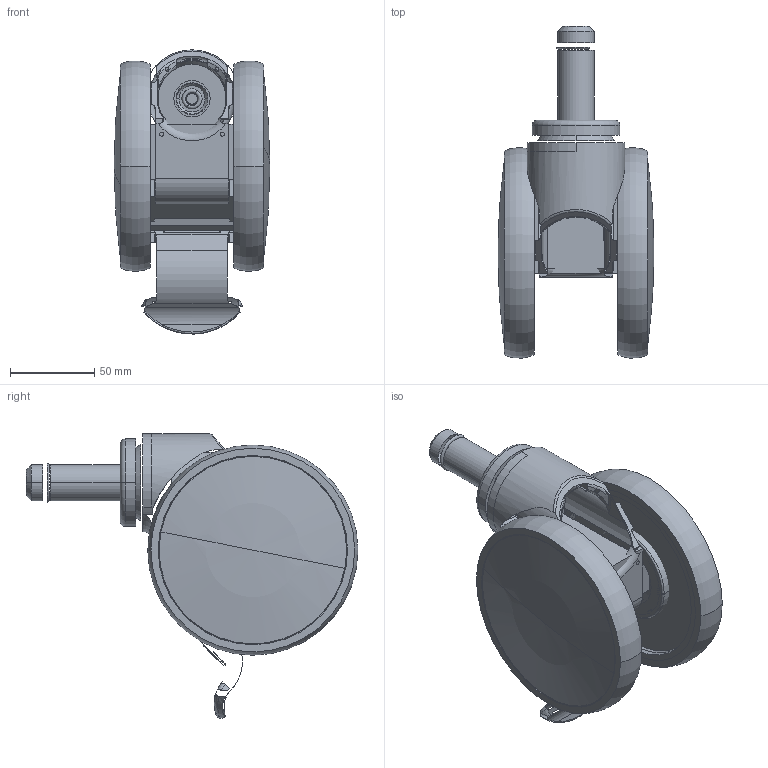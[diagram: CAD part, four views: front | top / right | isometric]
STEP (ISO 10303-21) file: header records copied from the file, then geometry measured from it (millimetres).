
FILE_DESCRIPTION((''),'2;1');
FILE_NAME('PRT0015','2025-06-26T16:23:03',('Administrator'),(''),'CREO PARAMETRIC BY PTC INC, 2022124','CREO PARAMETRIC BY PTC INC, 2022124','');
FILE_SCHEMA(('AP203_CONFIGURATION_CONTROLLED_3D_DESIGN_OF_MECHANICAL_PARTS_AND_ASSEMBLIES_MIM_LF { 1 0 10303 403 2 1 2 }'));
Length unit declared in the file: millimetre
Products named in the file (1): PRT0015
Bounding box: 92.5 x 197.12 x 168.77 mm (x, y, z)
Surface area: 101242.2 mm2 (no closed solid volume)
Topology: 0 solids, 54 shells, 150 faces, 1091 edges, 984 vertices
Faces by surface type: cylinder 47, plane 46, torus 23, bspline 12, cone 12, extrusion 6, sphere 4
Entity records: 14086 total; most frequent: CARTESIAN_POINT 5263, DIRECTION 1572, ORIENTED_EDGE 1242, EDGE_CURVE 1087, VERTEX_POINT 984, AXIS2_PLACEMENT_3D 589, CIRCLE 447, VECTOR 391
